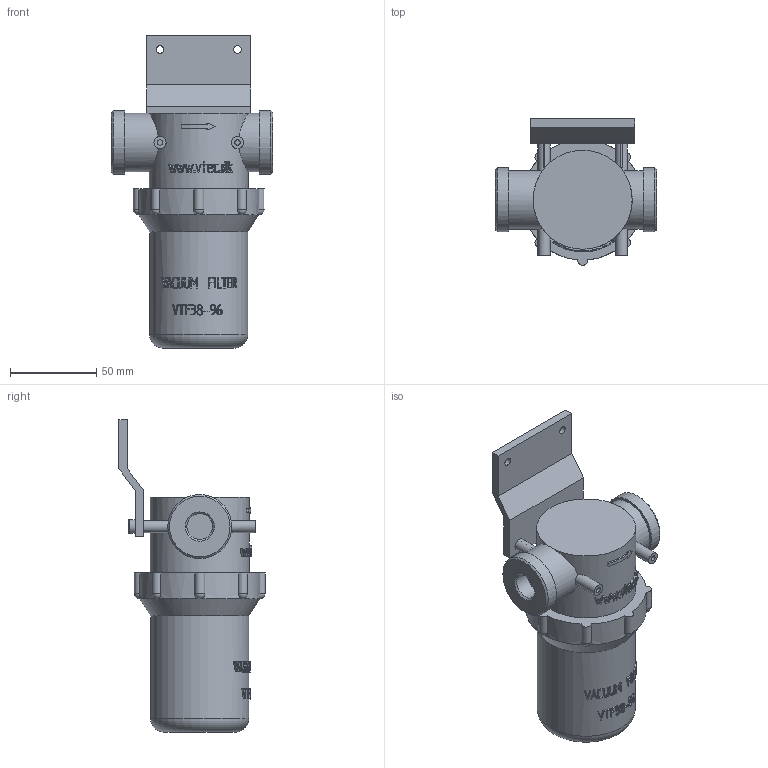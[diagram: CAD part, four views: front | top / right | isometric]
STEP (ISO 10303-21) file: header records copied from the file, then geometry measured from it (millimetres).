
FILE_DESCRIPTION( ( 'STEP AP214' ), '1' );
FILE_NAME( 'C:/撲啗紫賊-02/3D-Step File/Accessories/Vacuum Filter/VTF38-96.stp', '2006-04-24T06:06:52', ( ' ' ), ( ' ' ), 'XStep 1.0', ' ', ' ' );
FILE_SCHEMA( ( 'CONFIG_CONTROL_DESIGN) ( )' ) );
Length unit declared in the file: metre
Products named in the file (1): 1
Bounding box: 93.8 x 84.99 x 181.5 mm (x, y, z)
Volume: 426509.4 mm3; surface area: 51921.8 mm2
Topology: 1 solids, 1 shells, 397 faces, 1026 edges, 675 vertices
Faces by surface type: plane 195, bspline 102, cylinder 82, sphere 8, cone 7, torus 3
Full cylindrical faces by diameter (mm): 3.2 x2, 4.5 x2, 7 x4, 8 x2, 15 x2, 34 x2, 37.2 x2, 57 x1, 57.5 x1
Entity records: 25492 total; most frequent: CARTESIAN_POINT 13404, ORIENTED_EDGE 1944, DIRECTION 1566, EDGE_CURVE 972, VERTEX_POINT 659, AXIS2_PLACEMENT_3D 551, EDGE_LOOP 485, LINE 464
